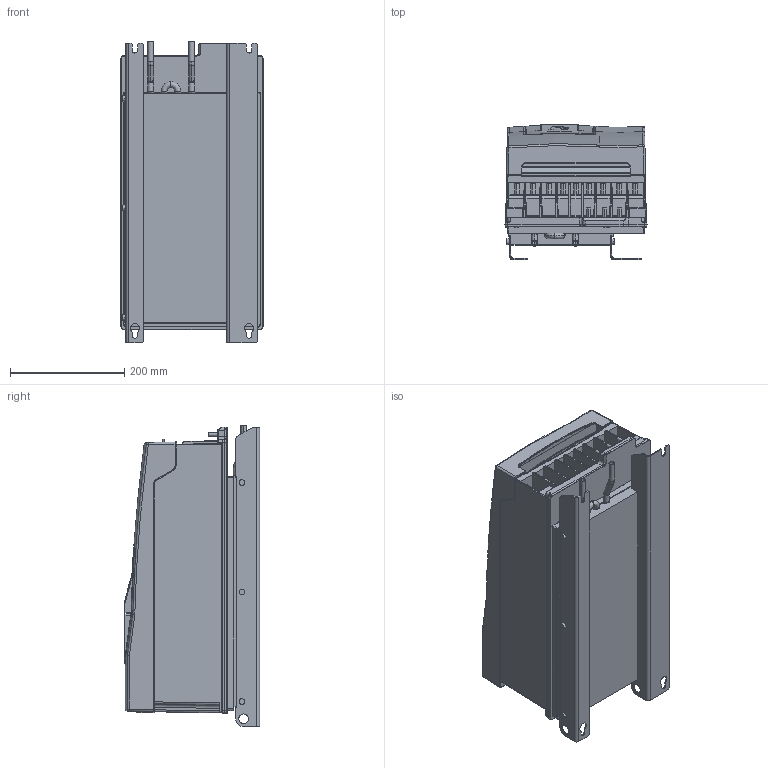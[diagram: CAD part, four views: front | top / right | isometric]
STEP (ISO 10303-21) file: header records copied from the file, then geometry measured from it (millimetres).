
FILE_DESCRIPTION (( 'STEP AP214' ), '1' );
FILE_NAME ('F6-6 TW0-A030.STEP', '2020-12-03T09:34:44', ( '' ), ( '' ), 'SwSTEP 2.0', 'SolidWorks 2019', '' );
FILE_SCHEMA (( 'AUTOMOTIVE_DESIGN' ));
Length unit declared in the file: millimetre
Products named in the file (11): 10059765_000; 10027052_000_Geh„usebaugruppe F6-6 (Kundenmodell); 10059764_000_Blindabdeckung (Kundenmodell); 10035736_000_Kundenmodell; F6-6 TW0-A030; 10061793_000_Deckelbaugruppe F6-6 (Kundenmodell); 10059763_000; 10061956_000; 10046074_000_Leistungsteil F6-6 TW0 (Kundenmodell); 10061794_000; 10060787_000
Assembly tree (10 placements, depth 4):
  F6-6 TW0-A030
    10046074_000_Leistungsteil F6-6 TW0 (Kundenmodell)
      10061956_000
    10027052_000_Geh„usebaugruppe F6-6 (Kundenmodell)
      10061793_000_Deckelbaugruppe F6-6 (Kundenmodell)
        10061794_000
      10060787_000
    10035736_000_Kundenmodell
      10059764_000_Blindabdeckung (Kundenmodell)
        10059765_000
      10059763_000
Bounding box: 249 x 236.9 x 528.7 mm (x, y, z)
Volume: 20530611.5 mm3; surface area: 1350441.6 mm2
Topology: 12 solids, 23 shells, 3152 faces, 8058 edges, 4883 vertices
Faces by surface type: plane 1125, cylinder 1065, bspline 592, torus 174, sphere 111, cone 85
Entity records: 108274 total; most frequent: CARTESIAN_POINT 36896, ORIENTED_EDGE 15820, DIRECTION 13656, EDGE_CURVE 7910, VERTEX_POINT 4881, AXIS2_PLACEMENT_3D 4878, LINE 3900, VECTOR 3900
